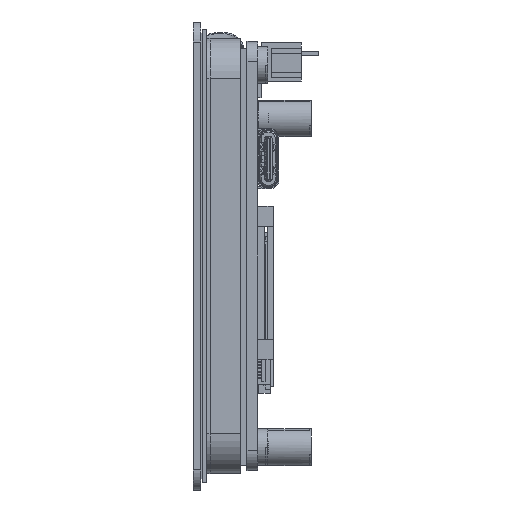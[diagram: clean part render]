
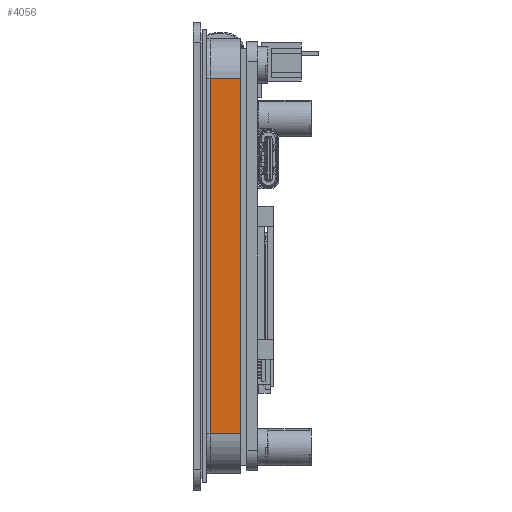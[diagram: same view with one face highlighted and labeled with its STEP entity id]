
A CAD part, left-side view. The second image highlights one B-rep face of the part: STEP entity #4056.
In plain terms, the highlighted planar face has unit normal (-1, 0, 0).
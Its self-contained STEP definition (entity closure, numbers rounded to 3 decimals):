
#321=DIRECTION('',(0.,0.,-1.));
#322=VECTOR('',#321,53.);
#323=CARTESIAN_POINT('',(-140.99,0.1,26.5));
#324=LINE('',#323,#322);
#493=DIRECTION('',(0.,0.,-1.));
#494=VECTOR('',#493,53.);
#495=CARTESIAN_POINT('',(-140.99,-4.4,26.5));
#496=LINE('',#495,#494);
#1092=DIRECTION('',(0.,1.,0.));
#1093=VECTOR('',#1092,4.5);
#1094=CARTESIAN_POINT('',(-140.99,-4.4,-26.5));
#1095=LINE('',#1094,#1093);
#1099=DIRECTION('',(0.,1.,0.));
#1100=VECTOR('',#1099,4.5);
#1101=CARTESIAN_POINT('',(-140.99,-4.4,26.5));
#1102=LINE('',#1101,#1100);
#2934=CARTESIAN_POINT('',(-140.99,-4.4,26.5));
#2936=VERTEX_POINT('',#2934);
#2937=CARTESIAN_POINT('',(-140.99,-4.4,-26.5));
#2938=VERTEX_POINT('',#2937);
#2950=CARTESIAN_POINT('',(-140.99,0.1,26.5));
#2952=VERTEX_POINT('',#2950);
#2953=CARTESIAN_POINT('',(-140.99,0.1,-26.5));
#2954=VERTEX_POINT('',#2953);
#4045=CARTESIAN_POINT('',(-140.99,-4.4,26.5));
#4046=DIRECTION('',(-1.,0.,0.));
#4047=DIRECTION('',(0.,0.,-1.));
#4048=AXIS2_PLACEMENT_3D('',#4045,#4046,#4047);
#4049=PLANE('',#4048);
#4050=ORIENTED_EDGE('',*,*,#3776,.T.);
#4051=ORIENTED_EDGE('',*,*,#4040,.T.);
#4052=ORIENTED_EDGE('',*,*,#3709,.F.);
#4053=ORIENTED_EDGE('',*,*,#3750,.F.);
#4054=EDGE_LOOP('',(#4050,#4051,#4052,#4053));
#4055=FACE_OUTER_BOUND('',#4054,.F.);
#4056=ADVANCED_FACE('',(#4055),#4049,.T.);
#3709=EDGE_CURVE('',#2952,#2954,#324,.T.);
#3750=EDGE_CURVE('',#2936,#2952,#1102,.T.);
#3776=EDGE_CURVE('',#2936,#2938,#496,.T.);
#4040=EDGE_CURVE('',#2938,#2954,#1095,.T.);
